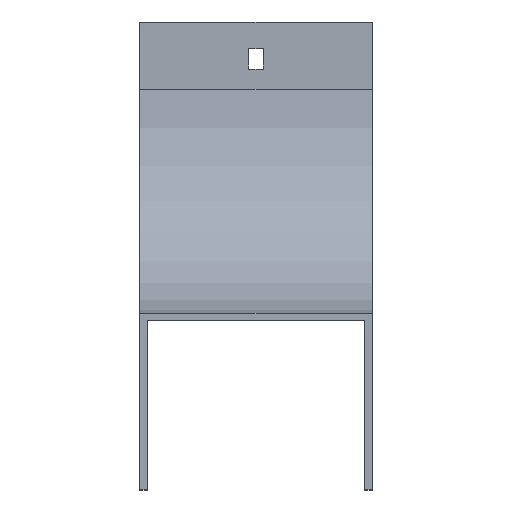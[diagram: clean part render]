
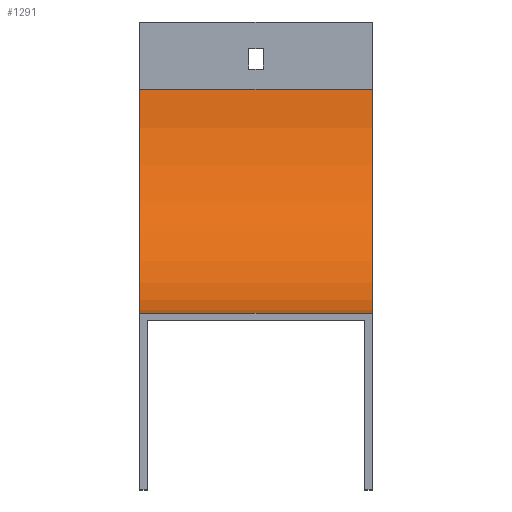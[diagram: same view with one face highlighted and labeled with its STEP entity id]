
A CAD part, front view. The second image highlights one B-rep face of the part: STEP entity #1291.
In plain terms, the highlighted cylindrical face has radius 100 mm (diameter 200 mm), a partial arc.
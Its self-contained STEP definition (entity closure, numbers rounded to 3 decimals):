
#12 = CIRCLE ( 'NONE', #770, 100. ) ;
#61 = EDGE_CURVE ( 'NONE', #1668, #1067, #558, .T. ) ;
#129 = DIRECTION ( 'NONE',  ( -1., 0., 0. ) ) ;
#136 = DIRECTION ( 'NONE',  ( -1., 0., 0. ) ) ;
#153 = CYLINDRICAL_SURFACE ( 'NONE', #421, 100. ) ;
#156 = EDGE_CURVE ( 'NONE', #163, #1668, #396, .T. ) ;
#163 = VERTEX_POINT ( 'NONE', #1012 ) ;
#173 = CARTESIAN_POINT ( 'NONE',  ( 52., -100., -130. ) ) ;
#229 = CARTESIAN_POINT ( 'NONE',  ( -52., -100., -30. ) ) ;
#260 = CARTESIAN_POINT ( 'NONE',  ( 52., -100., -30. ) ) ;
#267 = DIRECTION ( 'NONE',  ( -1., 0., 0. ) ) ;
#375 = DIRECTION ( 'NONE',  ( -1., 0., 0. ) ) ;
#396 = LINE ( 'NONE', #1499, #1678 ) ;
#421 = AXIS2_PLACEMENT_3D ( 'NONE', #583, #136, #1480 ) ;
#558 = CIRCLE ( 'NONE', #1841, 100. ) ;
#583 = CARTESIAN_POINT ( 'NONE',  ( 52., -100., -30. ) ) ;
#588 = EDGE_LOOP ( 'NONE', ( #1319, #877, #1853, #760 ) ) ;
#760 = ORIENTED_EDGE ( 'NONE', *, *, #156, .T. ) ;
#770 = AXIS2_PLACEMENT_3D ( 'NONE', #260, #1294, #1736 ) ;
#877 = ORIENTED_EDGE ( 'NONE', *, *, #1064, .F. ) ;
#976 = DIRECTION ( 'NONE',  ( 0., 0., 1. ) ) ;
#1012 = CARTESIAN_POINT ( 'NONE',  ( 52., 0., -30. ) ) ;
#1017 = EDGE_CURVE ( 'NONE', #163, #1948, #12, .T. ) ;
#1064 = EDGE_CURVE ( 'NONE', #1948, #1067, #1625, .T. ) ;
#1067 = VERTEX_POINT ( 'NONE', #1345 ) ;
#1291 = ADVANCED_FACE ( 'NONE', ( #1821 ), #153, .F. ) ;
#1294 = DIRECTION ( 'NONE',  ( -1., 0., 0. ) ) ;
#1319 = ORIENTED_EDGE ( 'NONE', *, *, #61, .T. ) ;
#1345 = CARTESIAN_POINT ( 'NONE',  ( -52., -100., -130. ) ) ;
#1471 = CARTESIAN_POINT ( 'NONE',  ( 52., -100., -130. ) ) ;
#1480 = DIRECTION ( 'NONE',  ( 0., 0., 1. ) ) ;
#1499 = CARTESIAN_POINT ( 'NONE',  ( 52., 0., -30. ) ) ;
#1625 = LINE ( 'NONE', #1471, #1830 ) ;
#1668 = VERTEX_POINT ( 'NONE', #1742 ) ;
#1678 = VECTOR ( 'NONE', #267, 1000. ) ;
#1736 = DIRECTION ( 'NONE',  ( 0., 0., 1. ) ) ;
#1742 = CARTESIAN_POINT ( 'NONE',  ( -52., 0., -30. ) ) ;
#1821 = FACE_OUTER_BOUND ( 'NONE', #588, .T. ) ;
#1830 = VECTOR ( 'NONE', #129, 1000. ) ;
#1841 = AXIS2_PLACEMENT_3D ( 'NONE', #229, #375, #976 ) ;
#1853 = ORIENTED_EDGE ( 'NONE', *, *, #1017, .F. ) ;
#1948 = VERTEX_POINT ( 'NONE', #173 ) ;
